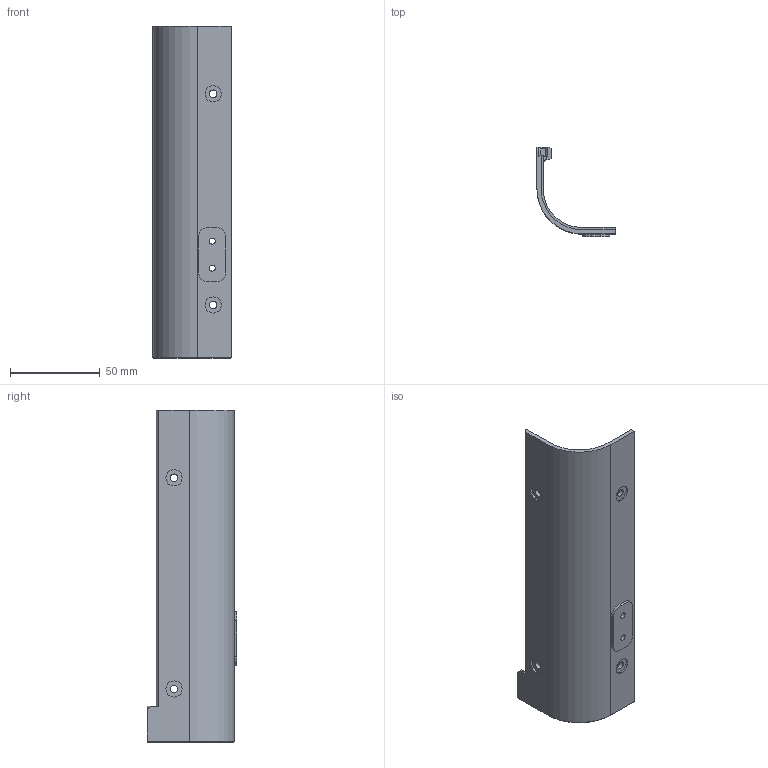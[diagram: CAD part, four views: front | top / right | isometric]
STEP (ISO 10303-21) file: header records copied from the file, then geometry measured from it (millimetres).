
FILE_DESCRIPTION (( 'STEP AP203' ), '1' );
FILE_NAME ('誘啣B2.STEP', '2024-01-02T07:31:04', ( '' ), ( '' ), 'SwSTEP 2.0', 'SolidWorks 2014', '' );
FILE_SCHEMA (( 'CONFIG_CONTROL_DESIGN' ));
Length unit declared in the file: millimetre
Products named in the file (1): 誘啣B2
Bounding box: 43.5 x 50 x 184.75 mm (x, y, z)
Volume: 47008.9 mm3; surface area: 29925.9 mm2
Topology: 1 solids, 1 shells, 135 faces, 341 edges, 221 vertices
Faces by surface type: plane 86, cylinder 35, bspline 11, cone 3
Entity records: 5033 total; most frequent: CARTESIAN_POINT 1696, ORIENTED_EDGE 682, DIRECTION 639, EDGE_CURVE 341, VECTOR 247, LINE 247, VERTEX_POINT 221, AXIS2_PLACEMENT_3D 196
